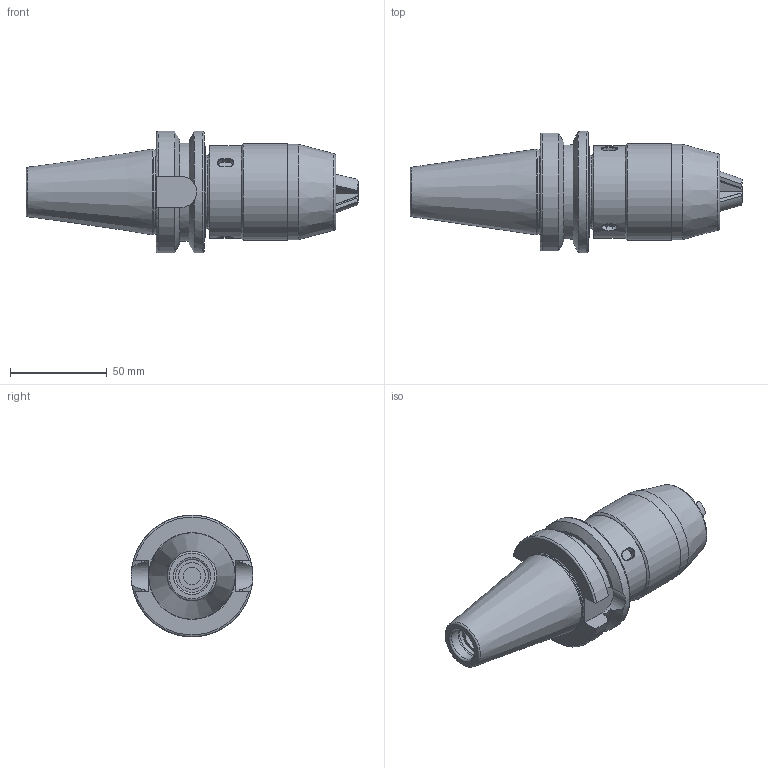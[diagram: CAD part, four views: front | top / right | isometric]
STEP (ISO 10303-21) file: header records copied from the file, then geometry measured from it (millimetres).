
FILE_DESCRIPTION(/* description */ (''),/* implementation_level */ '2;1');
FILE_NAME(/* name */ '\\SSKT-NAS\Lab-Data\연구소\DRAWING_3D\1. 인벤터\4. LAY-OUT\STANDARD\NC DRILL CHUCK-NPU\BT40\BT40-NPU13-95\BT40-NPU13-95.stp',/* time_stamp */ '2021-06-05T11:37:07+09:00',/* author */ ('KKK'),/* organization */ (''),/* preprocessor_version */ 'ST-DEVELOPER v18',/* originating_system */ 'Autodesk Inventor 2020',/* authorisation */ '');
FILE_SCHEMA (('AUTOMOTIVE_DESIGN { 1 0 10303 214 3 1 1 }'));
Length unit declared in the file: millimetre
Products named in the file (7): BT40-NPU13-95; LO-BT40-NPU13-95; BA12713201003A; BB1271306M401A---; BB12713070101A---; BB12713080101A---; BB12213030401C
Assembly tree (8 placements, depth 3):
  BT40-NPU13-95
    LO-BT40-NPU13-95
    BA12713201003A
      BB12213030401C  x3
      BB1271306M401A---
      BB12713070101A---
      BB12713080101A---
Bounding box: 171.93 x 63 x 63 mm (x, y, z)
Volume: 247488.7 mm3; surface area: 49503.4 mm2
Topology: 7 solids, 7 shells, 209 faces, 562 edges, 382 vertices
Faces by surface type: plane 132, cylinder 39, torus 18, cone 14, bspline 6
Full cylindrical faces by diameter (mm): 9 x1, 13.835 x1, 17 x1, 17.6 x1, 23.4 x1, 23.5 x1, 38 x1, 38.5 x1, 42 x1, 44 x2, 48 x1, 49.4 x1, 50 x1, 63 x1
Entity records: 6397 total; most frequent: CARTESIAN_POINT 2379, DIRECTION 837, ORIENTED_EDGE 768, EDGE_CURVE 384, AXIS2_PLACEMENT_3D 334, VERTEX_POINT 266, CIRCLE 177, LINE 169
